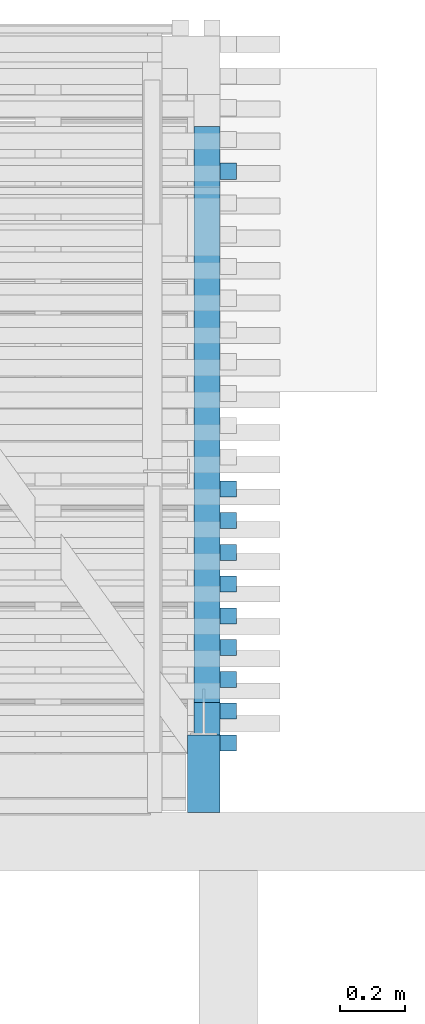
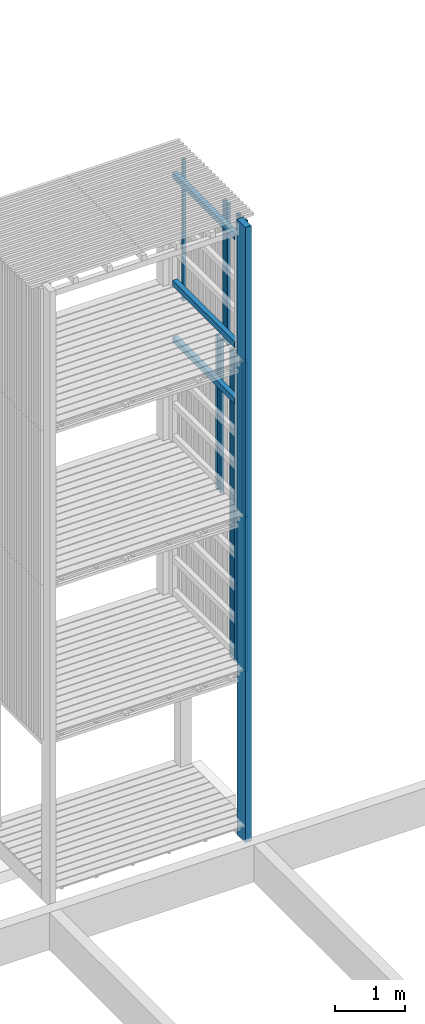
# One storey, part 155 of 182: 20 beams.
"""IFC2X3 building model written with IfcOpenShell, lengths in metres."""

from ifc_helpers import new_model, si_unit, frame, origin, place, context, project, spatial, faceted_brep, element, save


model = new_model("IFC2X3")

# Units and contexts
model_context = context("Model", 3, precision=1e-06, world=origin())
ifc_project = project(units=[si_unit("LENGTHUNIT", "METRE"), si_unit("PLANEANGLEUNIT", "RADIAN")], contexts=[model_context])

# Site, building, storey
site = spatial("IfcSite", under=ifc_project, CompositionType="ELEMENT")
building = spatial("IfcBuilding", under=site, CompositionType="ELEMENT")
storey = spatial("IfcBuildingStorey", under=building, Name="vs", CompositionType="ELEMENT", Elevation=-0.85)

# Beams
placement = place(None, origin())
beam_1_placement = place(placement, frame((36.344999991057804, 10.8100776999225, 10.114999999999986), z_axis=(0.0, 0.0, 1.0), x_axis=(0.0, 1.0, 0.0)))
element("IfcBeam", 1, at=beam_1_placement, inside=storey, Name="Support bardage", context=model_context, shape_type="Brep", body=[
    faceted_brep([(1.779999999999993, -0.039999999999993, 0.050000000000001), (1.779999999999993, -0.039999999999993, -0.050000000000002), (1.779999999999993, 0.04000000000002, -0.050000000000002), (1.779999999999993, 0.04000000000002, 0.050000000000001), (-4e-15, -0.039999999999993, -0.050000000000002), (1.779999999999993, -0.039999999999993, -0.050000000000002), (1.779999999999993, -0.039999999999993, 0.050000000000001), (-4e-15, -0.039999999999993, 0.050000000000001), (-4e-15, 0.04000000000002, -0.050000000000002), (1.779999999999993, 0.04000000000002, -0.050000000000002), (1.779999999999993, -0.039999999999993, -0.050000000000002), (-4e-15, -0.039999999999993, -0.050000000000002), (-4e-15, 0.04000000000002, 0.050000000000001), (1.779999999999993, 0.04000000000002, 0.050000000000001), (1.779999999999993, 0.04000000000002, -0.050000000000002), (-4e-15, 0.04000000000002, -0.050000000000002), (-4e-15, -0.039999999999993, 0.050000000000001), (1.779999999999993, -0.039999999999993, 0.050000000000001), (1.779999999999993, 0.04000000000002, 0.050000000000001), (-4e-15, 0.04000000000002, 0.050000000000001), (-4e-15, -0.039999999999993, -0.050000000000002), (-4e-15, -0.039999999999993, 0.050000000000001), (-4e-15, 0.04000000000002, 0.050000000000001), (-4e-15, 0.04000000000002, -0.050000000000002)], [[[0, 1, 2, 3]], [[4, 5, 6, 7]], [[8, 9, 10, 11]], [[12, 13, 14, 15]], [[16, 17, 18, 19]], [[20, 21, 22, 23]]]),
])
beam_2_placement = place(placement, frame((36.40999999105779, 12.452350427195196, 7.974999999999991), z_axis=(-1.0, 0.0, 0.0), x_axis=(0.0, 0.0, 1.0)))
element("IfcBeam", 2, at=beam_2_placement, inside=storey, Name="Bardage", context=model_context, shape_type="Brep", body=[
    faceted_brep([(2.479999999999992, -0.024999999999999, 0.024999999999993), (2.479999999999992, -0.024999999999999, -0.025000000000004), (2.479999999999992, 0.025000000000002, -0.025000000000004), (2.479999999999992, 0.025000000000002, 0.024999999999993), (0.0, 0.025000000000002, 0.024999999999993), (0.0, -0.024999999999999, 0.024999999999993), (2.479999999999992, -0.024999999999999, 0.024999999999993), (2.479999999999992, 0.025000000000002, 0.024999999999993), (0.0, -0.024999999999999, 0.024999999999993), (0.0, 0.025000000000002, 0.024999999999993), (0.0, 0.025000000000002, -0.025000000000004), (0.0, -0.024999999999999, -0.025000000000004), (0.0, 0.025000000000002, -0.025000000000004), (0.0, 0.025000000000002, 0.024999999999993), (2.479999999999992, 0.025000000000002, 0.024999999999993), (2.479999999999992, 0.025000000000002, -0.025000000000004), (0.0, -0.024999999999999, -0.025000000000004), (0.0, 0.025000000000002, -0.025000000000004), (2.479999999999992, 0.025000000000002, -0.025000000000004), (2.479999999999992, -0.024999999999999, -0.025000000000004), (2.479999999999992, -0.024999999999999, 0.024999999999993), (0.0, -0.024999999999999, 0.024999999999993), (0.0, -0.024999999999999, -0.025000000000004), (2.479999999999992, -0.024999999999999, -0.025000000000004)], [[[0, 1, 2, 3]], [[4, 5, 6, 7]], [[8, 9, 10, 11]], [[12, 13, 14, 15]], [[16, 17, 18, 19]], [[20, 21, 22, 23]]]),
])
beam_3_placement = place(placement, frame((36.344999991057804, 10.8100776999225, 7.24374999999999), z_axis=(0.0, 0.0, 1.0), x_axis=(0.0, 1.0, 0.0)))
element("IfcBeam", 3, at=beam_3_placement, inside=storey, Name="Support bardage", context=model_context, shape_type="Brep", body=[
    faceted_brep([(1.779999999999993, -0.039999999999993, 0.050000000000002), (1.779999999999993, -0.039999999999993, -0.049999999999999), (1.779999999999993, 0.04000000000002, -0.049999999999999), (1.779999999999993, 0.04000000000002, 0.050000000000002), (-4e-15, -0.039999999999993, -0.049999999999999), (1.779999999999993, -0.039999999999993, -0.049999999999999), (1.779999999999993, -0.039999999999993, 0.050000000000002), (-4e-15, -0.039999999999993, 0.050000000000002), (-4e-15, 0.04000000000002, -0.049999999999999), (1.779999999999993, 0.04000000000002, -0.049999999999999), (1.779999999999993, -0.039999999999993, -0.049999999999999), (-4e-15, -0.039999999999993, -0.049999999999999), (-4e-15, 0.04000000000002, 0.050000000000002), (1.779999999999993, 0.04000000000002, 0.050000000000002), (1.779999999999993, 0.04000000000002, -0.049999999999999), (-4e-15, 0.04000000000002, -0.049999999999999), (-4e-15, -0.039999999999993, 0.050000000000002), (1.779999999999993, -0.039999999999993, 0.050000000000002), (1.779999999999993, 0.04000000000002, 0.050000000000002), (-4e-15, 0.04000000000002, 0.050000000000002), (-4e-15, -0.039999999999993, -0.049999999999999), (-4e-15, -0.039999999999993, 0.050000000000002), (-4e-15, 0.04000000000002, 0.050000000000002), (-4e-15, 0.04000000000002, -0.049999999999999)], [[[0, 1, 2, 3]], [[4, 5, 6, 7]], [[8, 9, 10, 11]], [[12, 13, 14, 15]], [[16, 17, 18, 19]], [[20, 21, 22, 23]]]),
])
beam_4_placement = place(placement, frame((36.344999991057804, 10.8100776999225, 8.229999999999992), z_axis=(0.0, 0.0, 1.0), x_axis=(0.0, 1.0, 0.0)))
element("IfcBeam", 4, at=beam_4_placement, inside=storey, Name="Support bardage", context=model_context, shape_type="Brep", body=[
    faceted_brep([(1.779999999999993, -0.039999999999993, 0.050000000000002), (1.779999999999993, -0.039999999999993, -0.05), (1.779999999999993, 0.04000000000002, -0.05), (1.779999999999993, 0.04000000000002, 0.050000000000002), (-4e-15, -0.039999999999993, -0.05), (1.779999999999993, -0.039999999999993, -0.05), (1.779999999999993, -0.039999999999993, 0.050000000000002), (-4e-15, -0.039999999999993, 0.050000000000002), (-4e-15, 0.04000000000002, -0.05), (1.779999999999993, 0.04000000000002, -0.05), (1.779999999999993, -0.039999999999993, -0.05), (-4e-15, -0.039999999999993, -0.05), (-4e-15, 0.04000000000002, 0.050000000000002), (1.779999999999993, 0.04000000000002, 0.050000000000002), (1.779999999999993, 0.04000000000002, -0.05), (-4e-15, 0.04000000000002, -0.05), (-4e-15, -0.039999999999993, 0.050000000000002), (1.779999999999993, -0.039999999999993, 0.050000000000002), (1.779999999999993, 0.04000000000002, 0.050000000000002), (-4e-15, 0.04000000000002, 0.050000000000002), (-4e-15, -0.039999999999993, -0.05), (-4e-15, -0.039999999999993, 0.050000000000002), (-4e-15, 0.04000000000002, 0.050000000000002), (-4e-15, 0.04000000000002, -0.05)], [[[0, 1, 2, 3]], [[4, 5, 6, 7]], [[8, 9, 10, 11]], [[12, 13, 14, 15]], [[16, 17, 18, 19]], [[20, 21, 22, 23]]]),
])
beam_5_placement = place(placement, frame((36.40999999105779, 10.6850776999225, 7.974999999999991), z_axis=(-1.0, 0.0, 0.0), x_axis=(0.0, 0.0, 1.0)))
element("IfcBeam", 5, at=beam_5_placement, inside=storey, Name="Bardage", context=model_context, shape_type="Brep", body=[
    faceted_brep([(2.479999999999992, -0.025000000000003, 0.024999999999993), (2.479999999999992, -0.025000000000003, -0.025000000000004), (2.479999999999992, 0.024999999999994, -0.025000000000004), (2.479999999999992, 0.024999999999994, 0.024999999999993), (0.0, 0.024999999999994, 0.024999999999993), (0.0, -0.025000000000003, 0.024999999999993), (2.479999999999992, -0.025000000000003, 0.024999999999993), (2.479999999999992, 0.024999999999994, 0.024999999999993), (0.0, -0.025000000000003, 0.024999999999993), (0.0, 0.024999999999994, 0.024999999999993), (0.0, 0.024999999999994, -0.025000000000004), (0.0, -0.025000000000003, -0.025000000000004), (0.0, 0.024999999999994, -0.025000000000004), (0.0, 0.024999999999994, 0.024999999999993), (2.479999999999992, 0.024999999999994, 0.024999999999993), (2.479999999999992, 0.024999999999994, -0.025000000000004), (0.0, -0.025000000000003, -0.025000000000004), (0.0, 0.024999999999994, -0.025000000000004), (2.479999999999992, 0.024999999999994, -0.025000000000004), (2.479999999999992, -0.025000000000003, -0.025000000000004), (2.479999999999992, -0.025000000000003, 0.024999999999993), (0.0, -0.025000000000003, 0.024999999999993), (0.0, -0.025000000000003, -0.025000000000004), (2.479999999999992, -0.025000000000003, -0.025000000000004)], [[[0, 1, 2, 3]], [[4, 5, 6, 7]], [[8, 9, 10, 11]], [[12, 13, 14, 15]], [[16, 17, 18, 19]], [[20, 21, 22, 23]]]),
])
beam_6_placement = place(placement, frame((36.40999999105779, 10.783259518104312, 7.974999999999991), z_axis=(-1.0, 0.0, 0.0), x_axis=(0.0, 0.0, 1.0)))
element("IfcBeam", 6, at=beam_6_placement, inside=storey, Name="Bardage", context=model_context, shape_type="Brep", body=[
    faceted_brep([(2.479999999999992, -0.025000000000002, 0.024999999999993), (2.479999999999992, -0.025000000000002, -0.025000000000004), (2.479999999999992, 0.024999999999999, -0.025000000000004), (2.479999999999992, 0.024999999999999, 0.024999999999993), (0.0, 0.024999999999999, 0.024999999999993), (0.0, -0.025000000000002, 0.024999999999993), (2.479999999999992, -0.025000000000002, 0.024999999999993), (2.479999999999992, 0.024999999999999, 0.024999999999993), (0.0, -0.025000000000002, 0.024999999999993), (0.0, 0.024999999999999, 0.024999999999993), (0.0, 0.024999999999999, -0.025000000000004), (0.0, -0.025000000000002, -0.025000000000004), (0.0, 0.024999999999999, -0.025000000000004), (0.0, 0.024999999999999, 0.024999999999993), (2.479999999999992, 0.024999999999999, 0.024999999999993), (2.479999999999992, 0.024999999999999, -0.025000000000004), (0.0, -0.025000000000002, -0.025000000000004), (0.0, 0.024999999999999, -0.025000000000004), (2.479999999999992, 0.024999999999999, -0.025000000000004), (2.479999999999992, -0.025000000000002, -0.025000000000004), (2.479999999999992, -0.025000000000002, 0.024999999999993), (0.0, -0.025000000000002, 0.024999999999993), (0.0, -0.025000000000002, -0.025000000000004), (2.479999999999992, -0.025000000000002, -0.025000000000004)], [[[0, 1, 2, 3]], [[4, 5, 6, 7]], [[8, 9, 10, 11]], [[12, 13, 14, 15]], [[16, 17, 18, 19]], [[20, 21, 22, 23]]]),
])
beam_7_placement = place(placement, frame((36.344999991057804, 10.760077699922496, 2.746999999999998), z_axis=(0.0, 1.0, 0.0), x_axis=(0.0, 0.0, 1.0)))
element("IfcBeam", 7, at=beam_7_placement, inside=storey, Name="Support bardage", context=model_context, shape_type="Brep", body=[
    faceted_brep([(2.527961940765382, 0.039999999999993, -0.050000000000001), (2.527961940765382, 0.039999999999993, 0.05), (2.527961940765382, -0.04000000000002, 0.05), (2.527961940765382, -0.04000000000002, -0.050000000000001), (0.0, -0.04000000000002, -0.050000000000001), (0.0, 0.039999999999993, -0.050000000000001), (2.527961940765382, 0.039999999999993, -0.050000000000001), (2.527961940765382, -0.04000000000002, -0.050000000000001), (0.0, 0.039999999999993, -0.050000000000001), (0.0, -0.04000000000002, -0.050000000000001), (0.0, -0.04000000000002, 0.05), (0.0, 0.039999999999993, 0.05), (2.527961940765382, 0.039999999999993, -0.050000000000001), (0.0, 0.039999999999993, -0.050000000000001), (0.0, 0.039999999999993, 0.05), (2.527961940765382, 0.039999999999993, 0.05), (2.527961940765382, 0.039999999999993, 0.05), (0.0, 0.039999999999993, 0.05), (0.0, -0.04000000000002, 0.05), (2.527961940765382, -0.04000000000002, 0.05), (2.527961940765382, -0.04000000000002, 0.05), (0.0, -0.04000000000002, 0.05), (0.0, -0.04000000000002, -0.050000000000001), (2.527961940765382, -0.04000000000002, -0.050000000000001)], [[[0, 1, 2, 3]], [[4, 5, 6, 7]], [[8, 9, 10, 11]], [[12, 13, 14, 15]], [[16, 17, 18, 19]], [[20, 21, 22, 23]]]),
])
beam_8_placement = place(placement, frame((36.40999999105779, 10.6850776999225, 2.575000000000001), z_axis=(-1.0, 0.0, 0.0), x_axis=(0.0, 0.0, 1.0)))
element("IfcBeam", 8, at=beam_8_placement, inside=storey, Name="Bardage", context=model_context, shape_type="Brep", body=[
    faceted_brep([(0.0, -0.025000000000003, 0.024999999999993), (0.0, 0.024999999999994, 0.024999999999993), (0.0, 0.024999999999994, -0.025000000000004), (0.0, -0.025000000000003, -0.025000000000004), (2.699961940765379, 0.024999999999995, -0.025000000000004), (2.699961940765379, 0.024999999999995, 0.024999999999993), (2.699961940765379, -0.025000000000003, 0.024999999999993), (2.699961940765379, -0.025000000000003, -0.025000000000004), (0.0, -0.025000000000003, -0.025000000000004), (0.0, 0.024999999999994, -0.025000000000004), (2.699961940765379, 0.024999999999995, -0.025000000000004), (2.699961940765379, -0.025000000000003, -0.025000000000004), (2.699961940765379, 0.024999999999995, -0.025000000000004), (0.0, 0.024999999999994, -0.025000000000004), (0.0, 0.024999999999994, 0.024999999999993), (2.699961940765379, 0.024999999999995, 0.024999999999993), (2.699961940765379, 0.024999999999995, 0.024999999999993), (0.0, 0.024999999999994, 0.024999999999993), (0.0, -0.025000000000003, 0.024999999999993), (2.699961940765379, -0.025000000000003, 0.024999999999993), (2.699961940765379, -0.025000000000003, 0.024999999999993), (0.0, -0.025000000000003, 0.024999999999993), (0.0, -0.025000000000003, -0.025000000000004), (2.699961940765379, -0.025000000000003, -0.025000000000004)], [[[0, 1, 2, 3]], [[4, 5, 6, 7]], [[8, 9, 10, 11]], [[12, 13, 14, 15]], [[16, 17, 18, 19]], [[20, 21, 22, 23]]]),
])
beam_9_placement = place(placement, frame((36.40999999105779, 10.6850776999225, 5.274999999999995), z_axis=(-1.0, 0.0, 0.0), x_axis=(0.0, 0.0, 1.0)))
element("IfcBeam", 9, at=beam_9_placement, inside=storey, Name="Bardage", context=model_context, shape_type="Brep", body=[
    faceted_brep([(1e-15, -0.025000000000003, 0.024999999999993), (1e-15, 0.024999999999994, 0.024999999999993), (1e-15, 0.024999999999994, -0.025000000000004), (1e-15, -0.025000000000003, -0.025000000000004), (2.699999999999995, -0.025000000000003, -0.025000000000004), (2.699999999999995, 0.024999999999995, -0.025000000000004), (2.699999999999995, 0.024999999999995, 0.024999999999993), (2.699999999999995, -0.025000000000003, 0.024999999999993), (1e-15, -0.025000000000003, 0.024999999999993), (1e-15, -0.025000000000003, -0.025000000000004), (2.699999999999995, -0.025000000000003, -0.025000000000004), (2.699999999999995, -0.025000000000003, 0.024999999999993), (2.699999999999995, -0.025000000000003, -0.025000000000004), (1e-15, -0.025000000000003, -0.025000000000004), (1e-15, 0.024999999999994, -0.025000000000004), (2.699999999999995, 0.024999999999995, -0.025000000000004), (2.699999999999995, 0.024999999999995, -0.025000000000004), (1e-15, 0.024999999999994, -0.025000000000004), (1e-15, 0.024999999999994, 0.024999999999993), (2.699999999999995, 0.024999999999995, 0.024999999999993), (2.699999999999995, 0.024999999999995, 0.024999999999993), (1e-15, 0.024999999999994, 0.024999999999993), (1e-15, -0.025000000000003, 0.024999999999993), (2.699999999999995, -0.025000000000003, 0.024999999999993)], [[[0, 1, 2, 3]], [[4, 5, 6, 7]], [[8, 9, 10, 11]], [[12, 13, 14, 15]], [[16, 17, 18, 19]], [[20, 21, 22, 23]]]),
])
beam_10_placement = place(placement, frame((36.40999999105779, 10.783259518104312, 5.274999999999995), z_axis=(-1.0, 0.0, 0.0), x_axis=(0.0, 0.0, 1.0)))
element("IfcBeam", 10, at=beam_10_placement, inside=storey, Name="Bardage", context=model_context, shape_type="Brep", body=[
    faceted_brep([(1e-15, -0.025000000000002, 0.024999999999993), (1e-15, 0.024999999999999, 0.024999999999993), (1e-15, 0.024999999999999, -0.025000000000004), (1e-15, -0.025000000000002, -0.025000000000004), (2.699999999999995, -0.025000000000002, -0.025000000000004), (2.699999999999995, 0.024999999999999, -0.025000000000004), (2.699999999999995, 0.024999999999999, 0.024999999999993), (2.699999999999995, -0.025000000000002, 0.024999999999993), (1e-15, -0.025000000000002, 0.024999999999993), (1e-15, -0.025000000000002, -0.025000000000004), (2.699999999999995, -0.025000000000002, -0.025000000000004), (2.699999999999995, -0.025000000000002, 0.024999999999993), (2.699999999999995, -0.025000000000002, -0.025000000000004), (1e-15, -0.025000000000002, -0.025000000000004), (1e-15, 0.024999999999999, -0.025000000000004), (2.699999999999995, 0.024999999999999, -0.025000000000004), (2.699999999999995, 0.024999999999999, -0.025000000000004), (1e-15, 0.024999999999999, -0.025000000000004), (1e-15, 0.024999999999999, 0.024999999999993), (2.699999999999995, 0.024999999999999, 0.024999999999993), (2.699999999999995, 0.024999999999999, 0.024999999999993), (1e-15, 0.024999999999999, 0.024999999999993), (1e-15, -0.025000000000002, 0.024999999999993), (2.699999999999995, -0.025000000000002, 0.024999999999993)], [[[0, 1, 2, 3]], [[4, 5, 6, 7]], [[8, 9, 10, 11]], [[12, 13, 14, 15]], [[16, 17, 18, 19]], [[20, 21, 22, 23]]]),
])
beam_11_placement = place(placement, frame((36.40999999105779, 10.881441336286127, 7.974999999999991), z_axis=(-1.0, 0.0, 0.0), x_axis=(0.0, 0.0, 1.0)))
element("IfcBeam", 11, at=beam_11_placement, inside=storey, Name="Bardage", context=model_context, shape_type="Brep", body=[
    faceted_brep([(2.479999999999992, -0.024999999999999, 0.024999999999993), (2.479999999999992, -0.024999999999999, -0.025000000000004), (2.479999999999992, 0.025000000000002, -0.025000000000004), (2.479999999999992, 0.025000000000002, 0.024999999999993), (0.0, 0.025000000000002, 0.024999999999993), (0.0, -0.024999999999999, 0.024999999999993), (2.479999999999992, -0.024999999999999, 0.024999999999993), (2.479999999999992, 0.025000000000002, 0.024999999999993), (0.0, -0.024999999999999, 0.024999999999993), (0.0, 0.025000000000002, 0.024999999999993), (0.0, 0.025000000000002, -0.025000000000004), (0.0, -0.024999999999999, -0.025000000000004), (0.0, 0.025000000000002, -0.025000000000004), (0.0, 0.025000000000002, 0.024999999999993), (2.479999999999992, 0.025000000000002, 0.024999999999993), (2.479999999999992, 0.025000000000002, -0.025000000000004), (0.0, -0.024999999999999, -0.025000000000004), (0.0, 0.025000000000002, -0.025000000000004), (2.479999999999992, 0.025000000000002, -0.025000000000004), (2.479999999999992, -0.024999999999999, -0.025000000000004), (2.479999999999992, -0.024999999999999, 0.024999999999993), (0.0, -0.024999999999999, 0.024999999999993), (0.0, -0.024999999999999, -0.025000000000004), (2.479999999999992, -0.024999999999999, -0.025000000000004)], [[[0, 1, 2, 3]], [[4, 5, 6, 7]], [[8, 9, 10, 11]], [[12, 13, 14, 15]], [[16, 17, 18, 19]], [[20, 21, 22, 23]]]),
])
beam_12_placement = place(placement, frame((36.40999999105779, 11.470532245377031, 5.274999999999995), z_axis=(-1.0, 0.0, 0.0), x_axis=(0.0, 0.0, 1.0)))
element("IfcBeam", 12, at=beam_12_placement, inside=storey, Name="Bardage", context=model_context, shape_type="Brep", body=[
    faceted_brep([(1e-15, -0.025000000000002, 0.024999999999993), (1e-15, 0.025000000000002, 0.024999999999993), (1e-15, 0.025000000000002, -0.025000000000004), (1e-15, -0.025000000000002, -0.025000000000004), (2.699999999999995, -0.025000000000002, -0.025000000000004), (2.699999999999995, 0.025000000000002, -0.025000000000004), (2.699999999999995, 0.025000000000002, 0.024999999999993), (2.699999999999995, -0.025000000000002, 0.024999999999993), (1e-15, -0.025000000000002, 0.024999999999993), (1e-15, -0.025000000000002, -0.025000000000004), (2.699999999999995, -0.025000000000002, -0.025000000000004), (2.699999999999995, -0.025000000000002, 0.024999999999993), (2.699999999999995, -0.025000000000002, -0.025000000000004), (1e-15, -0.025000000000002, -0.025000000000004), (1e-15, 0.025000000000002, -0.025000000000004), (2.699999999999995, 0.025000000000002, -0.025000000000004), (2.699999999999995, 0.025000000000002, -0.025000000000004), (1e-15, 0.025000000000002, -0.025000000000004), (1e-15, 0.025000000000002, 0.024999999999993), (2.699999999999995, 0.025000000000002, 0.024999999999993), (2.699999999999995, 0.025000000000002, 0.024999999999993), (1e-15, 0.025000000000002, 0.024999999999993), (1e-15, -0.025000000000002, 0.024999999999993), (2.699999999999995, -0.025000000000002, 0.024999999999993)], [[[0, 1, 2, 3]], [[4, 5, 6, 7]], [[8, 9, 10, 11]], [[12, 13, 14, 15]], [[16, 17, 18, 19]], [[20, 21, 22, 23]]]),
])
beam_13_placement = place(placement, frame((36.40999999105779, 11.372350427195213, 5.274999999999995), z_axis=(-1.0, 0.0, 0.0), x_axis=(0.0, 0.0, 1.0)))
element("IfcBeam", 13, at=beam_13_placement, inside=storey, Name="Bardage", context=model_context, shape_type="Brep", body=[
    faceted_brep([(1e-15, -0.024999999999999, 0.024999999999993), (1e-15, 0.024999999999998, 0.024999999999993), (1e-15, 0.024999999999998, -0.025000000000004), (1e-15, -0.024999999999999, -0.025000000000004), (2.699999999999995, -0.024999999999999, -0.025000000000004), (2.699999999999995, 0.024999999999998, -0.025000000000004), (2.699999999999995, 0.024999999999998, 0.024999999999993), (2.699999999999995, -0.024999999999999, 0.024999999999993), (1e-15, -0.024999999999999, 0.024999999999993), (1e-15, -0.024999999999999, -0.025000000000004), (2.699999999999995, -0.024999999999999, -0.025000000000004), (2.699999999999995, -0.024999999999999, 0.024999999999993), (2.699999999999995, -0.024999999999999, -0.025000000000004), (1e-15, -0.024999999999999, -0.025000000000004), (1e-15, 0.024999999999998, -0.025000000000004), (2.699999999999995, 0.024999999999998, -0.025000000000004), (2.699999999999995, 0.024999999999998, -0.025000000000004), (1e-15, 0.024999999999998, -0.025000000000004), (1e-15, 0.024999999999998, 0.024999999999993), (2.699999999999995, 0.024999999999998, 0.024999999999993), (2.699999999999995, 0.024999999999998, 0.024999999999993), (1e-15, 0.024999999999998, 0.024999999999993), (1e-15, -0.024999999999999, 0.024999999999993), (2.699999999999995, -0.024999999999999, 0.024999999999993)], [[[0, 1, 2, 3]], [[4, 5, 6, 7]], [[8, 9, 10, 11]], [[12, 13, 14, 15]], [[16, 17, 18, 19]], [[20, 21, 22, 23]]]),
])
beam_14_placement = place(placement, frame((36.40999999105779, 11.077804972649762, 5.274999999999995), z_axis=(-1.0, 0.0, 0.0), x_axis=(0.0, 0.0, 1.0)))
element("IfcBeam", 14, at=beam_14_placement, inside=storey, Name="Bardage", context=model_context, shape_type="Brep", body=[
    faceted_brep([(1e-15, -0.024999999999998, 0.024999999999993), (1e-15, 0.024999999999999, 0.024999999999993), (1e-15, 0.024999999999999, -0.025000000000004), (1e-15, -0.024999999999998, -0.025000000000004), (2.699999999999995, -0.024999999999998, -0.025000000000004), (2.699999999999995, 0.024999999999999, -0.025000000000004), (2.699999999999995, 0.024999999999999, 0.024999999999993), (2.699999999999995, -0.024999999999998, 0.024999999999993), (1e-15, -0.024999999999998, 0.024999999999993), (1e-15, -0.024999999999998, -0.025000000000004), (2.699999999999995, -0.024999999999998, -0.025000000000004), (2.699999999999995, -0.024999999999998, 0.024999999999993), (2.699999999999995, -0.024999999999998, -0.025000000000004), (1e-15, -0.024999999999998, -0.025000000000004), (1e-15, 0.024999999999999, -0.025000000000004), (2.699999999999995, 0.024999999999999, -0.025000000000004), (2.699999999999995, 0.024999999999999, -0.025000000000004), (1e-15, 0.024999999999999, -0.025000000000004), (1e-15, 0.024999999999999, 0.024999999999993), (2.699999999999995, 0.024999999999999, 0.024999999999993), (2.699999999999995, 0.024999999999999, 0.024999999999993), (1e-15, 0.024999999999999, 0.024999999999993), (1e-15, -0.024999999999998, 0.024999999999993), (2.699999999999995, -0.024999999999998, 0.024999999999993)], [[[0, 1, 2, 3]], [[4, 5, 6, 7]], [[8, 9, 10, 11]], [[12, 13, 14, 15]], [[16, 17, 18, 19]], [[20, 21, 22, 23]]]),
])
beam_15_placement = place(placement, frame((36.40999999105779, 10.97962315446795, 2.575000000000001), z_axis=(-1.0, 0.0, 0.0), x_axis=(0.0, 0.0, 1.0)))
element("IfcBeam", 15, at=beam_15_placement, inside=storey, Name="Bardage", context=model_context, shape_type="Brep", body=[
    faceted_brep([(0.0, -0.025000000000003, 0.024999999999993), (0.0, 0.024999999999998, 0.024999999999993), (0.0, 0.024999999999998, -0.025000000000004), (0.0, -0.025000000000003, -0.025000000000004), (2.699961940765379, 0.024999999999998, -0.025000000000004), (2.699961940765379, 0.024999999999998, 0.024999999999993), (2.699961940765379, -0.025000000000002, 0.024999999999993), (2.699961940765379, -0.025000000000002, -0.025000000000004), (0.0, -0.025000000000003, -0.025000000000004), (0.0, 0.024999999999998, -0.025000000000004), (2.699961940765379, 0.024999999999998, -0.025000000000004), (2.699961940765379, -0.025000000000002, -0.025000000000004), (2.699961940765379, 0.024999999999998, -0.025000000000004), (0.0, 0.024999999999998, -0.025000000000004), (0.0, 0.024999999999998, 0.024999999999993), (2.699961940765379, 0.024999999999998, 0.024999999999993), (2.699961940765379, 0.024999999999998, 0.024999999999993), (0.0, 0.024999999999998, 0.024999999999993), (0.0, -0.025000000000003, 0.024999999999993), (2.699961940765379, -0.025000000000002, 0.024999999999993), (2.699961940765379, -0.025000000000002, 0.024999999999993), (0.0, -0.025000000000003, 0.024999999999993), (0.0, -0.025000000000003, -0.025000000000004), (2.699961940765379, -0.025000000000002, -0.025000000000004)], [[[0, 1, 2, 3]], [[4, 5, 6, 7]], [[8, 9, 10, 11]], [[12, 13, 14, 15]], [[16, 17, 18, 19]], [[20, 21, 22, 23]]]),
])
beam_16_placement = place(placement, frame((36.40999999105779, 11.274168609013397, 7.974999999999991), z_axis=(-1.0, 0.0, 0.0), x_axis=(0.0, 0.0, 1.0)))
element("IfcBeam", 16, at=beam_16_placement, inside=storey, Name="Bardage", context=model_context, shape_type="Brep", body=[
    faceted_brep([(2.479999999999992, -0.025000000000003, 0.024999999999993), (2.479999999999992, -0.025000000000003, -0.025000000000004), (2.479999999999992, 0.024999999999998, -0.025000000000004), (2.479999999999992, 0.024999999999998, 0.024999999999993), (0.0, 0.024999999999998, 0.024999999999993), (0.0, -0.025000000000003, 0.024999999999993), (2.479999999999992, -0.025000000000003, 0.024999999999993), (2.479999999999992, 0.024999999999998, 0.024999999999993), (0.0, -0.025000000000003, 0.024999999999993), (0.0, 0.024999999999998, 0.024999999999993), (0.0, 0.024999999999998, -0.025000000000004), (0.0, -0.025000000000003, -0.025000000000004), (0.0, 0.024999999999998, -0.025000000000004), (0.0, 0.024999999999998, 0.024999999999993), (2.479999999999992, 0.024999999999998, 0.024999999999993), (2.479999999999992, 0.024999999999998, -0.025000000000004), (0.0, -0.025000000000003, -0.025000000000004), (0.0, 0.024999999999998, -0.025000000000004), (2.479999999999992, 0.024999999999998, -0.025000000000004), (2.479999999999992, -0.025000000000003, -0.025000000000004), (2.479999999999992, -0.025000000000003, 0.024999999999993), (0.0, -0.025000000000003, 0.024999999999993), (0.0, -0.025000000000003, -0.025000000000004), (2.479999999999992, -0.025000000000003, -0.025000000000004)], [[[0, 1, 2, 3]], [[4, 5, 6, 7]], [[8, 9, 10, 11]], [[12, 13, 14, 15]], [[16, 17, 18, 19]], [[20, 21, 22, 23]]]),
])
beam_17_placement = place(placement, frame((36.40999999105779, 11.17598679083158, 7.974999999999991), z_axis=(-1.0, 0.0, 0.0), x_axis=(0.0, 0.0, 1.0)))
element("IfcBeam", 17, at=beam_17_placement, inside=storey, Name="Bardage", context=model_context, shape_type="Brep", body=[
    faceted_brep([(2.479999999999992, -0.025000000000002, 0.024999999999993), (2.479999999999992, -0.025000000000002, -0.025000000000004), (2.479999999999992, 0.024999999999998, -0.025000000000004), (2.479999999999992, 0.024999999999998, 0.024999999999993), (0.0, 0.024999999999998, 0.024999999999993), (0.0, -0.025000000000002, 0.024999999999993), (2.479999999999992, -0.025000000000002, 0.024999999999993), (2.479999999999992, 0.024999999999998, 0.024999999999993), (0.0, -0.025000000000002, 0.024999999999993), (0.0, 0.024999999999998, 0.024999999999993), (0.0, 0.024999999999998, -0.025000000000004), (0.0, -0.025000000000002, -0.025000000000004), (0.0, 0.024999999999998, -0.025000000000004), (0.0, 0.024999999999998, 0.024999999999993), (2.479999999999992, 0.024999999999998, 0.024999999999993), (2.479999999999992, 0.024999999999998, -0.025000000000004), (0.0, -0.025000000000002, -0.025000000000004), (0.0, 0.024999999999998, -0.025000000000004), (2.479999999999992, 0.024999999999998, -0.025000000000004), (2.479999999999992, -0.025000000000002, -0.025000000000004), (2.479999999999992, -0.025000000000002, 0.024999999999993), (0.0, -0.025000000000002, 0.024999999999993), (0.0, -0.025000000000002, -0.025000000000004), (2.479999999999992, -0.025000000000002, -0.025000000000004)], [[[0, 1, 2, 3]], [[4, 5, 6, 7]], [[8, 9, 10, 11]], [[12, 13, 14, 15]], [[16, 17, 18, 19]], [[20, 21, 22, 23]]]),
])
beam_18_placement = place(placement, frame((36.40999999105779, 11.077804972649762, 2.575000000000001), z_axis=(-1.0, 0.0, 0.0), x_axis=(0.0, 0.0, 1.0)))
element("IfcBeam", 18, at=beam_18_placement, inside=storey, Name="Bardage", context=model_context, shape_type="Brep", body=[
    faceted_brep([(0.0, -0.024999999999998, 0.024999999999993), (0.0, 0.024999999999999, 0.024999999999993), (0.0, 0.024999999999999, -0.025000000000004), (0.0, -0.024999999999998, -0.025000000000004), (2.699961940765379, 0.024999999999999, -0.025000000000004), (2.699961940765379, 0.024999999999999, 0.024999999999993), (2.699961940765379, -0.024999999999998, 0.024999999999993), (2.699961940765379, -0.024999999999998, -0.025000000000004), (0.0, -0.024999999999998, -0.025000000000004), (0.0, 0.024999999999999, -0.025000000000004), (2.699961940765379, 0.024999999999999, -0.025000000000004), (2.699961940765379, -0.024999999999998, -0.025000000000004), (2.699961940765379, 0.024999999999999, -0.025000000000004), (0.0, 0.024999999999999, -0.025000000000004), (0.0, 0.024999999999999, 0.024999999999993), (2.699961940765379, 0.024999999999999, 0.024999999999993), (2.699961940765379, 0.024999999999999, 0.024999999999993), (0.0, 0.024999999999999, 0.024999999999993), (0.0, -0.024999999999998, 0.024999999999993), (2.699961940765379, -0.024999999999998, 0.024999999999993), (2.699961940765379, -0.024999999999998, 0.024999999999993), (0.0, -0.024999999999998, 0.024999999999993), (0.0, -0.024999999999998, -0.025000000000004), (2.699961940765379, -0.024999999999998, -0.025000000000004)], [[[0, 1, 2, 3]], [[4, 5, 6, 7]], [[8, 9, 10, 11]], [[12, 13, 14, 15]], [[16, 17, 18, 19]], [[20, 21, 22, 23]]]),
])
beam_19_placement = place(placement, frame((36.33499999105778, 10.590077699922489, 10.494999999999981), z_axis=(0.0, 1.0, 0.0), x_axis=(0.0, 0.0, -1.0)))
element("IfcBeam", 19, at=beam_19_placement, inside=storey, Name="Poteau", context=model_context, shape_type="Brep", body=[
    faceted_brep([(0.0, -0.050000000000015, -0.120000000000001), (10.754999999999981, -0.050000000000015, -0.120000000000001), (10.754999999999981, -0.050000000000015, 0.120000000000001), (0.0, -0.050000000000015, 0.120000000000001), (0.0, 0.049999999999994, -0.120000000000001), (10.754999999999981, 0.049999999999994, -0.120000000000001), (10.754999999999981, -0.050000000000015, -0.120000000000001), (0.0, -0.050000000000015, -0.120000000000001), (10.754999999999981, -0.050000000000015, 0.120000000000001), (10.754999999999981, -0.050000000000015, -0.120000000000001), (10.754999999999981, 0.049999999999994, -0.120000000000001), (10.754999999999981, 0.049999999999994, 0.120000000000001), (0.0, -0.050000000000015, 0.120000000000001), (10.754999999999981, -0.050000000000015, 0.120000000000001), (10.754999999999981, 0.049999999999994, 0.120000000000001), (0.0, 0.049999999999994, 0.120000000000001), (0.0, 0.049999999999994, 0.120000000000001), (10.754999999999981, 0.049999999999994, 0.120000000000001), (10.754999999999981, 0.049999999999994, -0.120000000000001), (0.0, 0.049999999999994, -0.120000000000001), (0.0, 0.049999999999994, 0.120000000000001), (0.0, 0.049999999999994, -0.120000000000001), (0.0, -0.050000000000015, -0.120000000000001), (0.0, -0.050000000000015, 0.120000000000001)], [[[0, 1, 2, 3]], [[4, 5, 6, 7]], [[8, 9, 10, 11]], [[12, 13, 14, 15]], [[16, 17, 18, 19]], [[20, 21, 22, 23]]]),
])
beam_20_placement = place(placement, frame((36.40999999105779, 10.979623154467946, 5.274999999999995), z_axis=(-1.0, 0.0, 0.0), x_axis=(0.0, 1e-15, 1.0)))
element("IfcBeam", 20, at=beam_20_placement, inside=storey, Name="Bardage", context=model_context, shape_type="Brep", body=[
    faceted_brep([(1e-15, -0.024999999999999, 0.024999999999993), (1e-15, 0.025000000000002, 0.024999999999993), (1e-15, 0.025000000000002, -0.025000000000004), (1e-15, -0.024999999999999, -0.025000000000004), (2.699999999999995, -0.025000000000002, -0.025000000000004), (2.699999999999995, 0.024999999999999, -0.025000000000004), (2.699999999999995, 0.024999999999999, 0.024999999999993), (2.699999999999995, -0.025000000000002, 0.024999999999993), (1e-15, -0.024999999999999, 0.024999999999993), (1e-15, -0.024999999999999, -0.025000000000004), (2.699999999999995, -0.025000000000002, -0.025000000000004), (2.699999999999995, -0.025000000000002, 0.024999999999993), (2.699999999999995, -0.025000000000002, -0.025000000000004), (1e-15, -0.024999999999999, -0.025000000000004), (1e-15, 0.025000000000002, -0.025000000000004), (2.699999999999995, 0.024999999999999, -0.025000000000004), (2.699999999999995, 0.024999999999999, -0.025000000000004), (1e-15, 0.025000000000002, -0.025000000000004), (1e-15, 0.025000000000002, 0.024999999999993), (2.699999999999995, 0.024999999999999, 0.024999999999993), (2.699999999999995, 0.024999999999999, 0.024999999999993), (1e-15, 0.025000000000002, 0.024999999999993), (1e-15, -0.024999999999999, 0.024999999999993), (2.699999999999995, -0.025000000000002, 0.024999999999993)], [[[0, 1, 2, 3]], [[4, 5, 6, 7]], [[8, 9, 10, 11]], [[12, 13, 14, 15]], [[16, 17, 18, 19]], [[20, 21, 22, 23]]]),
])

save(model, "model.ifc")
